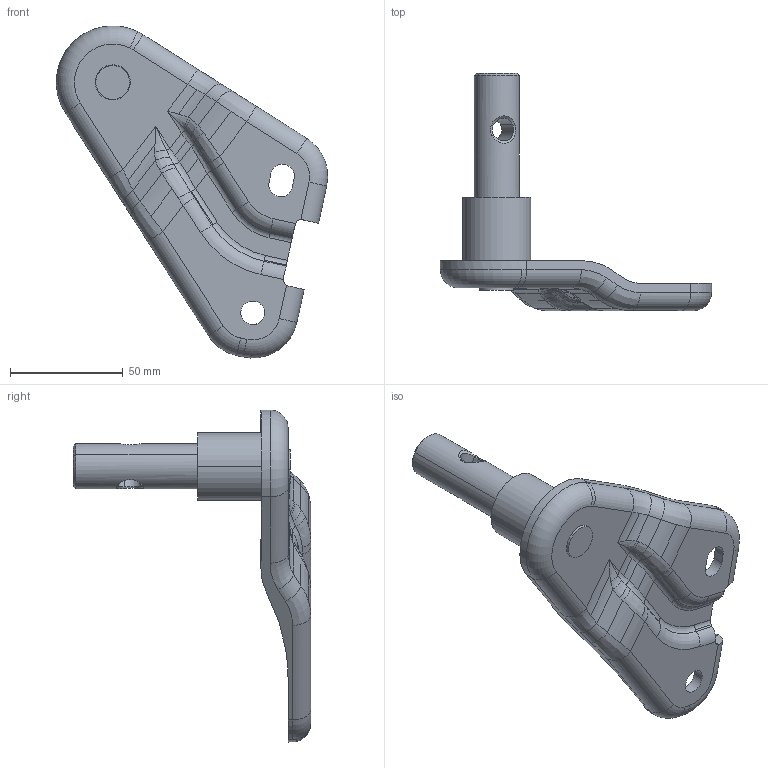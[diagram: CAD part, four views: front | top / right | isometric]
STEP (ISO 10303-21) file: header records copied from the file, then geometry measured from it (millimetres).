
FILE_DESCRIPTION(('CATIA V5 STEP Exchange'),'2;1');
FILE_NAME('C:\Users\lizhaofeng\Desktop\L5000扶手支架样件数据.stp','2021-04-15T07:32:48+00:00',('none'),('none'),'CATIA Version 5 Release 20 GA (IN-10)','CATIA V5 STEP AP203 Edition 2','none');
FILE_SCHEMA(('AP203_CONFIGURATION_CONTROLLED_3D_DESIGN_OF_MECHANICAL_PARTS_AND_ASSEMBLIES_MIM_LF { 1 0 10303 403 2 1 2}'));
Length unit declared in the file: millimetre
Products named in the file (3): SHT0013142; SHT0012565; SHT0013140
Assembly tree (2 placements, depth 2):
  SHT0013142
    SHT0012565
    SHT0013140
Bounding box: 120.11 x 105.1 x 147 mm (x, y, z)
Volume: 98078.8 mm3; surface area: 34166.3 mm2
Topology: 2 solids, 2 shells, 210 faces, 528 edges, 320 vertices
Faces by surface type: cylinder 109, bspline 44, plane 35, torus 18, cone 4
Entity records: 8473 total; most frequent: CARTESIAN_POINT 4059, ORIENTED_EDGE 1048, DIRECTION 620, EDGE_CURVE 524, VERTEX_POINT 320, AXIS2_PLACEMENT_3D 283, EDGE_LOOP 220, ADVANCED_FACE 210
